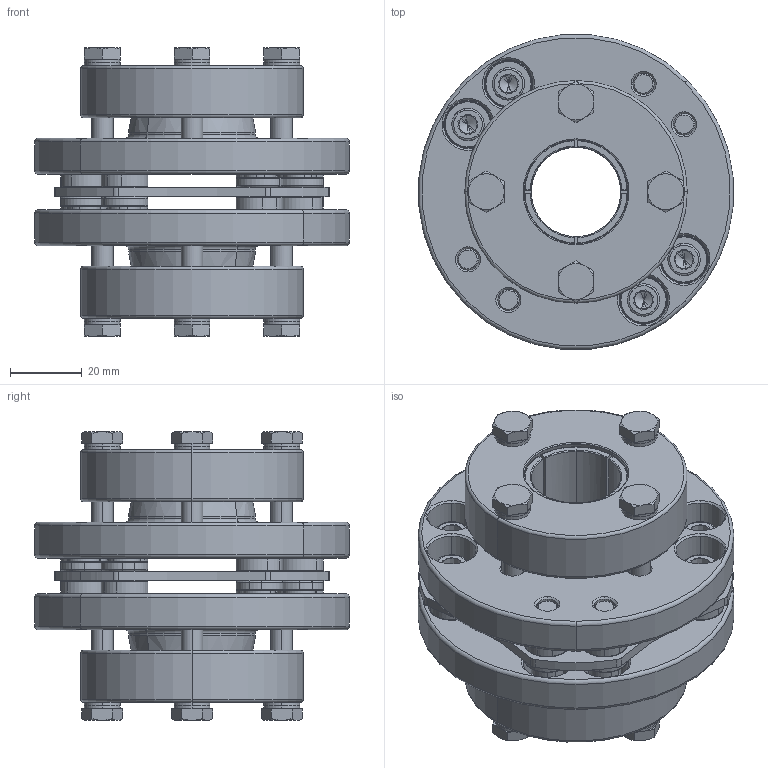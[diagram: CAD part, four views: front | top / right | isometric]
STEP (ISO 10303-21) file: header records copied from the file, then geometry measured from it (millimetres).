
FILE_DESCRIPTION (( 'STEP AP214' ), '1' );
FILE_NAME ('SHDS-88T.STEP', '2009-05-22T00:53:28', ( '歜煽繹' ), ( '' ), 'SwSTEP 2.0', 'SolidWorks 2007', '' );
FILE_SCHEMA (( 'AUTOMOTIVE_DESIGN' ));
Length unit declared in the file: millimetre
Products named in the file (11): collar-1_ル遽; M6x18; collar-2_ル遽; M6x30_H_H; Washer; SHDS-88T; sus-plate1_ル遽; 憮蝶っ橫撬_ル遽; body_ル遽; cover_ル遽; sub_ル遽
Assembly tree (38 placements, depth 4):
  SHDS-88T
    sub_ル遽  x2
      Washer
      body_ル遽
      M6x30_H_H
      憮蝶っ橫撬_ル遽
        M6x18  x8
        collar-2_ル遽  x8
        collar-1_ル遽  x8
        sus-plate1_ル遽
      cover_ル遽
Bounding box: 87.67 x 87.67 x 80.39 mm (x, y, z)
Volume: 217891.8 mm3; surface area: 108456.7 mm2
Topology: 70 solids, 70 shells, 1626 faces, 3510 edges, 2048 vertices
Faces by surface type: plane 500, cylinder 438, torus 420, cone 268
Entity records: 9067 total; most frequent: DIRECTION 1689, CARTESIAN_POINT 1565, ORIENTED_EDGE 1338, AXIS2_PLACEMENT_3D 725, EDGE_CURVE 669, VERTEX_POINT 401, CIRCLE 394, EDGE_LOOP 352
